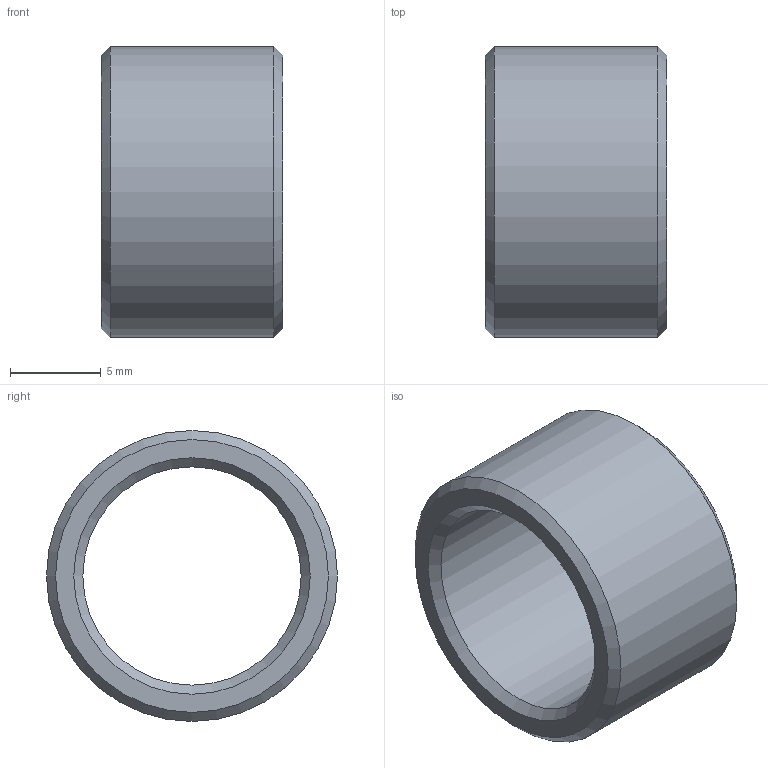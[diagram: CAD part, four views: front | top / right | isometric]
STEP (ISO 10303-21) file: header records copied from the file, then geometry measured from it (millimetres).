
FILE_DESCRIPTION(/* description */ (''),/* implementation_level */ '2;1');
FILE_NAME(/* name */ '',/* time_stamp */ '2024-07-29T13:44:35+09:00',/* author */ ('jhkim'),/* organization */ (''),/* preprocessor_version */ 'ST-DEVELOPER v20',/* originating_system */ 'Autodesk Inventor 2025',/* authorisation */ '');
FILE_SCHEMA (('AUTOMOTIVE_DESIGN { 1 0 10303 214 3 1 1 }'));
Length unit declared in the file: millimetre
Products named in the file (1): 칼라
Bounding box: 10 x 16 x 16 mm (x, y, z)
Volume: 857.7 mm3; surface area: 1004 mm2
Topology: 1 solids, 1 shells, 8 faces, 14 edges, 8 vertices
Faces by surface type: cone 4, cylinder 2, plane 2
Full cylindrical faces by diameter (mm): 12 x1, 16 x1
Entity records: 241 total; most frequent: DIRECTION 40, CARTESIAN_POINT 31, ORIENTED_EDGE 28, AXIS2_PLACEMENT_3D 17, EDGE_CURVE 14, EDGE_LOOP 10, FACE_OUTER_BOUND 8, CIRCLE 8
